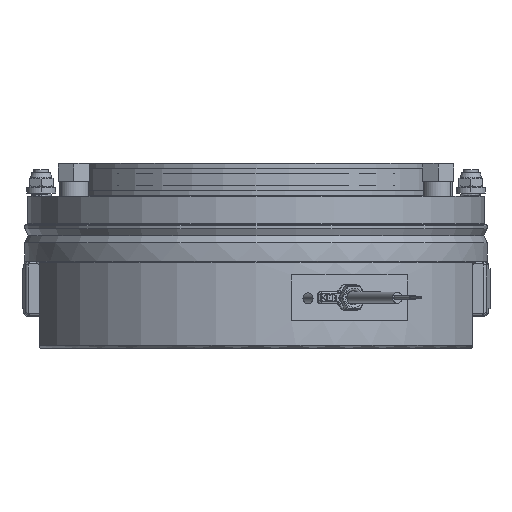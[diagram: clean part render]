
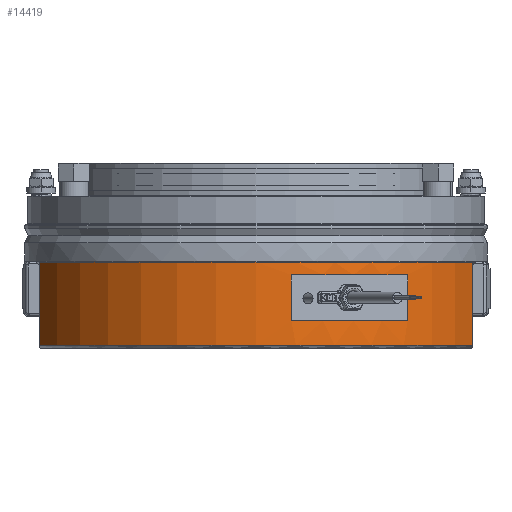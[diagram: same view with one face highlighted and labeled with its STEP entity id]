
A CAD part, front view. The second image highlights one B-rep face of the part: STEP entity #14419.
In plain terms, the highlighted cylindrical face has radius 126 mm (diameter 252 mm), a partial arc.
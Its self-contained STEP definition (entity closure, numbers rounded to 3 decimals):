
#484 = VERTEX_POINT ( 'NONE', #48565 ) ;
#2345 = DIRECTION ( 'NONE',  ( 0., 0., 1. ) ) ;
#2372 = EDGE_LOOP ( 'NONE', ( #40388, #41170, #33221, #8295 ) ) ;
#3190 = LINE ( 'NONE', #48736, #13889 ) ;
#3344 = FACE_BOUND ( 'NONE', #2372, .T. ) ;
#3942 = VECTOR ( 'NONE', #21003, 1000. ) ;
#4302 = ORIENTED_EDGE ( 'NONE', *, *, #24712, .T. ) ;
#5135 = CARTESIAN_POINT ( 'NONE',  ( -82.987, -94.811, 27.5 ) ) ;
#5408 = DIRECTION ( 'NONE',  ( 0., 0., -1. ) ) ;
#6025 = VERTEX_POINT ( 'NONE', #37468 ) ;
#6557 = AXIS2_PLACEMENT_3D ( 'NONE', #12423, #2345, #22126 ) ;
#7698 = DIRECTION ( 'NONE',  ( -1., 0., 0. ) ) ;
#8224 = VECTOR ( 'NONE', #18525, 1000. ) ;
#8295 = ORIENTED_EDGE ( 'NONE', *, *, #62429, .T. ) ;
#9040 = DIRECTION ( 'NONE',  ( 0., 0., -1. ) ) ;
#10770 = VECTOR ( 'NONE', #27672, 1000. ) ;
#11628 = CARTESIAN_POINT ( 'NONE',  ( 0., 0., 66. ) ) ;
#12423 = CARTESIAN_POINT ( 'NONE',  ( 0., 0., 52.5 ) ) ;
#13138 = DIRECTION ( 'NONE',  ( 0., 0., -1. ) ) ;
#13889 = VECTOR ( 'NONE', #9040, 1000. ) ;
#14009 = LINE ( 'NONE', #28937, #8224 ) ;
#14419 = ADVANCED_FACE ( 'NONE', ( #47927, #3344 ), #62921, .T. ) ;
#17185 = VERTEX_POINT ( 'NONE', #61963 ) ;
#17630 = CARTESIAN_POINT ( 'NONE',  ( 0., 0., 0. ) ) ;
#17646 = VERTEX_POINT ( 'NONE', #52017 ) ;
#17660 = AXIS2_PLACEMENT_3D ( 'NONE', #11628, #56870, #7698 ) ;
#18137 = ORIENTED_EDGE ( 'NONE', *, *, #64387, .T. ) ;
#18525 = DIRECTION ( 'NONE',  ( 0., 0., -1. ) ) ;
#20505 = ORIENTED_EDGE ( 'NONE', *, *, #29101, .T. ) ;
#21003 = DIRECTION ( 'NONE',  ( 0., 0., 1. ) ) ;
#22126 = DIRECTION ( 'NONE',  ( -1., 0., 0. ) ) ;
#22803 = VERTEX_POINT ( 'NONE', #5135 ) ;
#23593 = AXIS2_PLACEMENT_3D ( 'NONE', #17630, #37487, #27399 ) ;
#23813 = CARTESIAN_POINT ( 'NONE',  ( 0., 0., 20.5 ) ) ;
#23925 = AXIS2_PLACEMENT_3D ( 'NONE', #40485, #5408, #54883 ) ;
#24712 = EDGE_CURVE ( 'NONE', #48624, #17185, #37415, .T. ) ;
#24714 = CARTESIAN_POINT ( 'NONE',  ( -19.287, -124.515, 27.5 ) ) ;
#27399 = DIRECTION ( 'NONE',  ( -1., 0., 0. ) ) ;
#27672 = DIRECTION ( 'NONE',  ( 0., 0., 1. ) ) ;
#28937 = CARTESIAN_POINT ( 'NONE',  ( -82.987, -94.811, 0. ) ) ;
#29101 = EDGE_CURVE ( 'NONE', #6025, #48624, #55567, .T. ) ;
#29692 = ORIENTED_EDGE ( 'NONE', *, *, #30606, .F. ) ;
#30606 = EDGE_CURVE ( 'NONE', #6025, #17646, #62235, .T. ) ;
#31009 = EDGE_CURVE ( 'NONE', #54872, #22803, #14009, .T. ) ;
#33221 = ORIENTED_EDGE ( 'NONE', *, *, #36130, .F. ) ;
#36130 = EDGE_CURVE ( 'NONE', #53762, #484, #43303, .T. ) ;
#37218 = AXIS2_PLACEMENT_3D ( 'NONE', #23813, #13138, #42720 ) ;
#37415 = CIRCLE ( 'NONE', #17660, 126. ) ;
#37468 = CARTESIAN_POINT ( 'NONE',  ( 118.294, -43.388, 20.5 ) ) ;
#37487 = DIRECTION ( 'NONE',  ( 0., 0., -1. ) ) ;
#39260 = CARTESIAN_POINT ( 'NONE',  ( 118.294, -43.388, 66. ) ) ;
#40388 = ORIENTED_EDGE ( 'NONE', *, *, #31009, .F. ) ;
#40485 = CARTESIAN_POINT ( 'NONE',  ( 0., 0., 27.5 ) ) ;
#40854 = CARTESIAN_POINT ( 'NONE',  ( 118.294, -43.388, 0. ) ) ;
#41170 = ORIENTED_EDGE ( 'NONE', *, *, #47152, .T. ) ;
#42720 = DIRECTION ( 'NONE',  ( -1., 0., 0. ) ) ;
#43303 = LINE ( 'NONE', #63192, #10770 ) ;
#44595 = CARTESIAN_POINT ( 'NONE',  ( -82.987, -94.811, 52.5 ) ) ;
#47152 = EDGE_CURVE ( 'NONE', #54872, #484, #49164, .T. ) ;
#47927 = FACE_OUTER_BOUND ( 'NONE', #62356, .T. ) ;
#48565 = CARTESIAN_POINT ( 'NONE',  ( -19.287, -124.515, 52.5 ) ) ;
#48624 = VERTEX_POINT ( 'NONE', #39260 ) ;
#48736 = CARTESIAN_POINT ( 'NONE',  ( -118.294, -43.388, 0. ) ) ;
#49164 = CIRCLE ( 'NONE', #6557, 126. ) ;
#52017 = CARTESIAN_POINT ( 'NONE',  ( -118.294, -43.388, 20.5 ) ) ;
#53140 = CIRCLE ( 'NONE', #23925, 126. ) ;
#53762 = VERTEX_POINT ( 'NONE', #24714 ) ;
#54872 = VERTEX_POINT ( 'NONE', #44595 ) ;
#54883 = DIRECTION ( 'NONE',  ( 1., 0., 0. ) ) ;
#55567 = LINE ( 'NONE', #40854, #3942 ) ;
#56870 = DIRECTION ( 'NONE',  ( 0., 0., -1. ) ) ;
#61963 = CARTESIAN_POINT ( 'NONE',  ( -118.294, -43.388, 66. ) ) ;
#62235 = CIRCLE ( 'NONE', #37218, 126. ) ;
#62356 = EDGE_LOOP ( 'NONE', ( #29692, #20505, #4302, #18137 ) ) ;
#62429 = EDGE_CURVE ( 'NONE', #53762, #22803, #53140, .T. ) ;
#62921 = CYLINDRICAL_SURFACE ( 'NONE', #23593, 126. ) ;
#63192 = CARTESIAN_POINT ( 'NONE',  ( -19.287, -124.515, 0. ) ) ;
#64387 = EDGE_CURVE ( 'NONE', #17185, #17646, #3190, .T. ) ;
